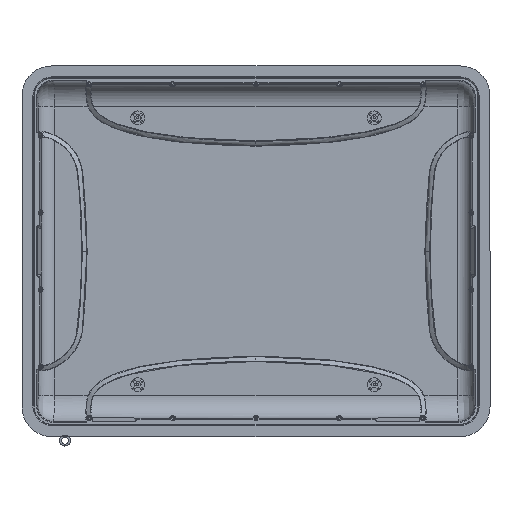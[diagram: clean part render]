
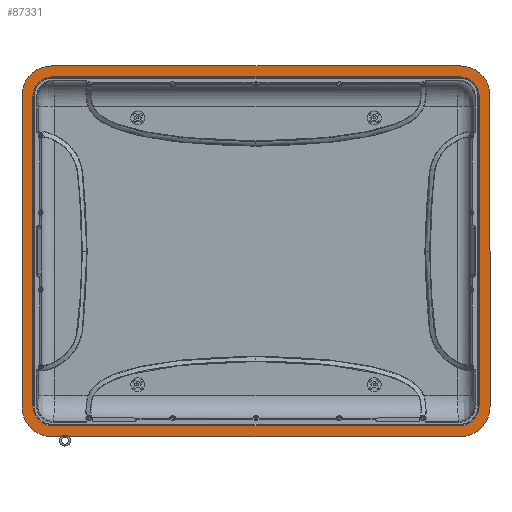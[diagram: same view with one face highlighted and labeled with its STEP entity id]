
A CAD part, front view. The second image highlights one B-rep face of the part: STEP entity #87331.
In plain terms, the highlighted planar face has unit normal (0, -1, 0).
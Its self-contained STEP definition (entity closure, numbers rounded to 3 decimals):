
#1002 = CARTESIAN_POINT ( 'NONE',  ( 11.87, 0., 7.9 ) ) ;
#1379 = VERTEX_POINT ( 'NONE', #75035 ) ;
#1729 = VERTEX_POINT ( 'NONE', #37643 ) ;
#2082 = EDGE_CURVE ( 'NONE', #72275, #1379, #70114, .T. ) ;
#2138 = AXIS2_PLACEMENT_3D ( 'NONE', #6223, #13049, #14400 ) ;
#3222 = DIRECTION ( 'NONE',  ( 0., 0., 1. ) ) ;
#3806 = CIRCLE ( 'NONE', #15438, 1. ) ;
#5162 = EDGE_CURVE ( 'NONE', #28972, #24007, #69613, .T. ) ;
#6101 = VERTEX_POINT ( 'NONE', #39812 ) ;
#6131 = ORIENTED_EDGE ( 'NONE', *, *, #25392, .T. ) ;
#6223 = CARTESIAN_POINT ( 'NONE',  ( -10.317, 0., -7.847 ) ) ;
#7303 = ORIENTED_EDGE ( 'NONE', *, *, #16210, .T. ) ;
#7453 = AXIS2_PLACEMENT_3D ( 'NONE', #36827, #64605, #39941 ) ;
#8278 = LINE ( 'NONE', #22871, #82767 ) ;
#8815 = EDGE_CURVE ( 'NONE', #69061, #73943, #86937, .T. ) ;
#9001 = PLANE ( 'NONE',  #7453 ) ;
#9244 = AXIS2_PLACEMENT_3D ( 'NONE', #16823, #24558, #72411 ) ;
#9843 = EDGE_CURVE ( 'NONE', #55548, #59395, #76997, .T. ) ;
#10566 = ORIENTED_EDGE ( 'NONE', *, *, #2082, .T. ) ;
#10798 = FACE_OUTER_BOUND ( 'NONE', #73181, .T. ) ;
#11362 = EDGE_CURVE ( 'NONE', #6101, #1729, #52101, .T. ) ;
#12814 = DIRECTION ( 'NONE',  ( 0., -1., 0. ) ) ;
#13049 = DIRECTION ( 'NONE',  ( 0., 1., 0. ) ) ;
#13310 = CARTESIAN_POINT ( 'NONE',  ( 11.317, 0., 0. ) ) ;
#13311 = VECTOR ( 'NONE', #51398, 39.37 ) ;
#14400 = DIRECTION ( 'NONE',  ( 0., 0., 1. ) ) ;
#15438 = AXIS2_PLACEMENT_3D ( 'NONE', #46270, #52201, #45368 ) ;
#15737 = AXIS2_PLACEMENT_3D ( 'NONE', #21883, #63351, #83389 ) ;
#15838 = FACE_BOUND ( 'NONE', #49772, .T. ) ;
#16210 = EDGE_CURVE ( 'NONE', #40317, #80043, #8278, .T. ) ;
#16318 = CARTESIAN_POINT ( 'NONE',  ( 11.317, 0., 7.847 ) ) ;
#16339 = ORIENTED_EDGE ( 'NONE', *, *, #5162, .T. ) ;
#16823 = CARTESIAN_POINT ( 'NONE',  ( -10.317, 0., 7.847 ) ) ;
#17233 = ORIENTED_EDGE ( 'NONE', *, *, #8815, .T. ) ;
#20482 = VECTOR ( 'NONE', #72266, 39.37 ) ;
#20599 = ORIENTED_EDGE ( 'NONE', *, *, #28337, .F. ) ;
#20690 = DIRECTION ( 'NONE',  ( 0., -1., 0. ) ) ;
#21883 = CARTESIAN_POINT ( 'NONE',  ( -10.37, 0., -7.9 ) ) ;
#22251 = LINE ( 'NONE', #72357, #13311 ) ;
#22871 = CARTESIAN_POINT ( 'NONE',  ( 0., 0., -8.847 ) ) ;
#23697 = CARTESIAN_POINT ( 'NONE',  ( -11.317, 0., -7.847 ) ) ;
#24007 = VERTEX_POINT ( 'NONE', #33719 ) ;
#24236 = VECTOR ( 'NONE', #55226, 39.37 ) ;
#24409 = AXIS2_PLACEMENT_3D ( 'NONE', #45562, #38287, #86551 ) ;
#24558 = DIRECTION ( 'NONE',  ( 0., 1., 0. ) ) ;
#25392 = EDGE_CURVE ( 'NONE', #1379, #6101, #64775, .T. ) ;
#27019 = VECTOR ( 'NONE', #38330, 39.37 ) ;
#27399 = CARTESIAN_POINT ( 'NONE',  ( 10.317, 0., -7.847 ) ) ;
#28163 = CIRCLE ( 'NONE', #9244, 1. ) ;
#28337 = EDGE_CURVE ( 'NONE', #79983, #59395, #3806, .T. ) ;
#28375 = CARTESIAN_POINT ( 'NONE',  ( 10.37, 0., 9.4 ) ) ;
#28952 = EDGE_CURVE ( 'NONE', #43865, #79983, #89387, .T. ) ;
#28972 = VERTEX_POINT ( 'NONE', #68904 ) ;
#32180 = ORIENTED_EDGE ( 'NONE', *, *, #52276, .T. ) ;
#33719 = CARTESIAN_POINT ( 'NONE',  ( 11.87, 0., -7.9 ) ) ;
#33907 = VECTOR ( 'NONE', #85405, 39.37 ) ;
#35118 = ORIENTED_EDGE ( 'NONE', *, *, #88893, .F. ) ;
#36527 = CARTESIAN_POINT ( 'NONE',  ( -11.317, 0., 7.847 ) ) ;
#36827 = CARTESIAN_POINT ( 'NONE',  ( 0., 0., 0. ) ) ;
#37643 = CARTESIAN_POINT ( 'NONE',  ( -10.37, 0., -9.4 ) ) ;
#37860 = LINE ( 'NONE', #65639, #72934 ) ;
#38287 = DIRECTION ( 'NONE',  ( 0., -1., 0. ) ) ;
#38330 = DIRECTION ( 'NONE',  ( 0., 0., -1. ) ) ;
#38361 = ORIENTED_EDGE ( 'NONE', *, *, #11362, .T. ) ;
#39812 = CARTESIAN_POINT ( 'NONE',  ( -11.87, 0., -7.9 ) ) ;
#39941 = DIRECTION ( 'NONE',  ( 0., 0., 1. ) ) ;
#40317 = VERTEX_POINT ( 'NONE', #64875 ) ;
#41279 = ORIENTED_EDGE ( 'NONE', *, *, #86952, .T. ) ;
#41632 = CARTESIAN_POINT ( 'NONE',  ( -10.317, 0., -8.847 ) ) ;
#43865 = VERTEX_POINT ( 'NONE', #83753 ) ;
#44391 = EDGE_CURVE ( 'NONE', #80043, #48579, #66206, .T. ) ;
#44712 = CARTESIAN_POINT ( 'NONE',  ( -11.87, 0., 7.847 ) ) ;
#45368 = DIRECTION ( 'NONE',  ( 0., 0., 1. ) ) ;
#45562 = CARTESIAN_POINT ( 'NONE',  ( 10.37, 0., 7.9 ) ) ;
#45775 = ORIENTED_EDGE ( 'NONE', *, *, #84503, .T. ) ;
#46270 = CARTESIAN_POINT ( 'NONE',  ( 10.317, 0., 7.847 ) ) ;
#48579 = VERTEX_POINT ( 'NONE', #23697 ) ;
#49167 = VECTOR ( 'NONE', #55152, 39.37 ) ;
#49772 = EDGE_LOOP ( 'NONE', ( #88220, #20599, #87541, #35118, #7303, #84800, #32180, #71146 ) ) ;
#51398 = DIRECTION ( 'NONE',  ( -1., 0., 0. ) ) ;
#52101 = CIRCLE ( 'NONE', #15737, 1.5 ) ;
#52140 = LINE ( 'NONE', #57633, #33907 ) ;
#52201 = DIRECTION ( 'NONE',  ( 0., -1., 0. ) ) ;
#52276 = EDGE_CURVE ( 'NONE', #48579, #53671, #37860, .T. ) ;
#53590 = DIRECTION ( 'NONE',  ( 0., -1., 0. ) ) ;
#53626 = AXIS2_PLACEMENT_3D ( 'NONE', #67260, #53590, #80463 ) ;
#53671 = VERTEX_POINT ( 'NONE', #36527 ) ;
#55122 = CARTESIAN_POINT ( 'NONE',  ( -10.317, 0., 8.847 ) ) ;
#55152 = DIRECTION ( 'NONE',  ( 1., 0., 0. ) ) ;
#55226 = DIRECTION ( 'NONE',  ( 0., 0., 1. ) ) ;
#55548 = VERTEX_POINT ( 'NONE', #55122 ) ;
#57633 = CARTESIAN_POINT ( 'NONE',  ( 11.87, 0., -7.847 ) ) ;
#58182 = CARTESIAN_POINT ( 'NONE',  ( 10.317, 0., 8.847 ) ) ;
#58530 = CARTESIAN_POINT ( 'NONE',  ( -10.37, 0., 9.4 ) ) ;
#59395 = VERTEX_POINT ( 'NONE', #58182 ) ;
#60041 = EDGE_CURVE ( 'NONE', #24007, #69061, #52140, .T. ) ;
#60804 = DIRECTION ( 'NONE',  ( 0., 0., 1. ) ) ;
#63351 = DIRECTION ( 'NONE',  ( 0., -1., 0. ) ) ;
#64058 = LINE ( 'NONE', #79528, #20482 ) ;
#64329 = DIRECTION ( 'NONE',  ( -1., 0., 0. ) ) ;
#64605 = DIRECTION ( 'NONE',  ( 0., 1., 0. ) ) ;
#64775 = LINE ( 'NONE', #44712, #27019 ) ;
#64875 = CARTESIAN_POINT ( 'NONE',  ( 10.317, 0., -8.847 ) ) ;
#65639 = CARTESIAN_POINT ( 'NONE',  ( -11.317, 0., 0. ) ) ;
#66206 = CIRCLE ( 'NONE', #2138, 1. ) ;
#67260 = CARTESIAN_POINT ( 'NONE',  ( 10.37, 0., -7.9 ) ) ;
#68410 = DIRECTION ( 'NONE',  ( 0., 0., 1. ) ) ;
#68826 = CARTESIAN_POINT ( 'NONE',  ( 0., 0., 8.847 ) ) ;
#68904 = CARTESIAN_POINT ( 'NONE',  ( 10.37, 0., -9.4 ) ) ;
#69061 = VERTEX_POINT ( 'NONE', #1002 ) ;
#69612 = EDGE_CURVE ( 'NONE', #53671, #55548, #28163, .T. ) ;
#69613 = CIRCLE ( 'NONE', #53626, 1.5 ) ;
#70114 = CIRCLE ( 'NONE', #78900, 1.5 ) ;
#71146 = ORIENTED_EDGE ( 'NONE', *, *, #69612, .T. ) ;
#72266 = DIRECTION ( 'NONE',  ( 1., 0., 0. ) ) ;
#72275 = VERTEX_POINT ( 'NONE', #58530 ) ;
#72357 = CARTESIAN_POINT ( 'NONE',  ( 10.317, 0., 9.4 ) ) ;
#72411 = DIRECTION ( 'NONE',  ( 0., 0., 1. ) ) ;
#72934 = VECTOR ( 'NONE', #3222, 39.37 ) ;
#73181 = EDGE_LOOP ( 'NONE', ( #6131, #38361, #45775, #16339, #78767, #17233, #41279, #10566 ) ) ;
#73943 = VERTEX_POINT ( 'NONE', #28375 ) ;
#75035 = CARTESIAN_POINT ( 'NONE',  ( -11.87, 0., 7.9 ) ) ;
#76997 = LINE ( 'NONE', #68826, #49167 ) ;
#78767 = ORIENTED_EDGE ( 'NONE', *, *, #60041, .T. ) ;
#78900 = AXIS2_PLACEMENT_3D ( 'NONE', #81302, #20690, #60804 ) ;
#79528 = CARTESIAN_POINT ( 'NONE',  ( -10.317, 0., -9.4 ) ) ;
#79983 = VERTEX_POINT ( 'NONE', #16318 ) ;
#80043 = VERTEX_POINT ( 'NONE', #41632 ) ;
#80463 = DIRECTION ( 'NONE',  ( 0., 0., 1. ) ) ;
#81302 = CARTESIAN_POINT ( 'NONE',  ( -10.37, 0., 7.9 ) ) ;
#82767 = VECTOR ( 'NONE', #64329, 39.37 ) ;
#83389 = DIRECTION ( 'NONE',  ( 0., 0., 1. ) ) ;
#83753 = CARTESIAN_POINT ( 'NONE',  ( 11.317, 0., -7.847 ) ) ;
#84503 = EDGE_CURVE ( 'NONE', #1729, #28972, #64058, .T. ) ;
#84643 = AXIS2_PLACEMENT_3D ( 'NONE', #27399, #12814, #68410 ) ;
#84800 = ORIENTED_EDGE ( 'NONE', *, *, #44391, .T. ) ;
#85405 = DIRECTION ( 'NONE',  ( 0., 0., 1. ) ) ;
#86551 = DIRECTION ( 'NONE',  ( 0., 0., 1. ) ) ;
#86937 = CIRCLE ( 'NONE', #24409, 1.5 ) ;
#86952 = EDGE_CURVE ( 'NONE', #73943, #72275, #22251, .T. ) ;
#87331 = ADVANCED_FACE ( 'NONE', ( #15838, #10798 ), #9001, .F. ) ;
#87541 = ORIENTED_EDGE ( 'NONE', *, *, #28952, .F. ) ;
#87587 = CIRCLE ( 'NONE', #84643, 1. ) ;
#88220 = ORIENTED_EDGE ( 'NONE', *, *, #9843, .T. ) ;
#88893 = EDGE_CURVE ( 'NONE', #40317, #43865, #87587, .T. ) ;
#89387 = LINE ( 'NONE', #13310, #24236 ) ;
